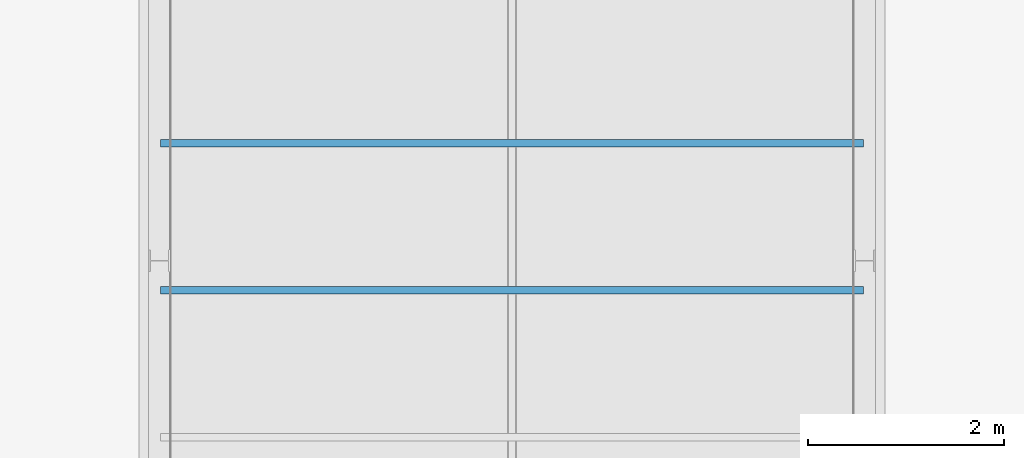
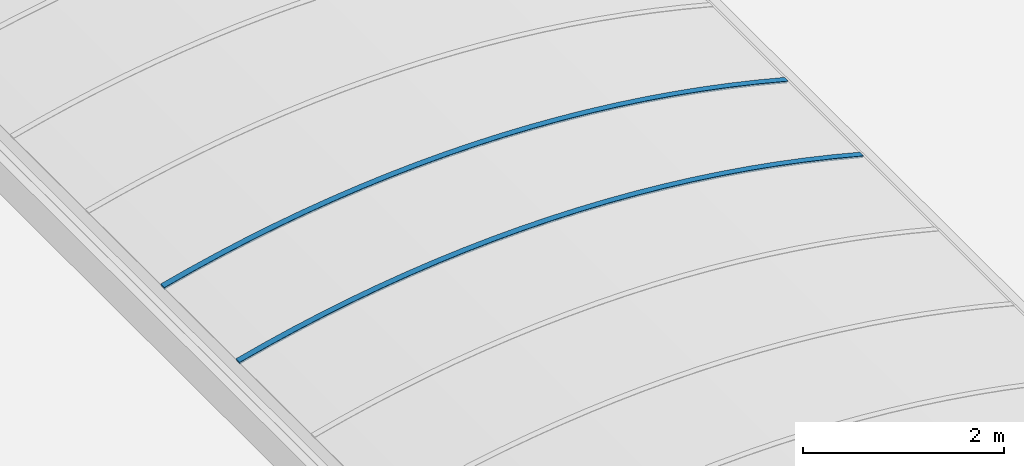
# One storey, part 45 of 81: 2 beams.
"""IFC2X3 building model written with IfcOpenShell, lengths in millimetres."""

from ifc_helpers import new_model, entity, si_unit, converted_unit, derived_unit, money_unit, direction, frame, origin_with_axes, place, context, subcontext, project, spatial, faceted_brep, material, material_list, type_object, element, save


model = new_model("IFC2X3")

# Units and contexts
model_context = context("Model", 3, precision=0.01, world=origin_with_axes(), true_north=direction((0.0, 1.0)))
body_context = subcontext(model_context, "Body", "Model", "MODEL_VIEW")
ifc_project = project(units=[si_unit("LENGTHUNIT", "METRE", prefix="MILLI"), si_unit("AREAUNIT", "SQUARE_METRE"), si_unit("VOLUMEUNIT", "CUBIC_METRE"), converted_unit("PLANEANGLEUNIT", "DEGREE", entity("IfcPlaneAngleMeasure", 0.0174532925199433), si_unit("PLANEANGLEUNIT", "RADIAN"), dimensions=[0, 0, 0, 0, 0, 0, 0]), money_unit("EUR"), converted_unit("TIMEUNIT", "Year", entity("IfcTimeMeasure", 31557600.0), si_unit("TIMEUNIT", "SECOND"), dimensions=[0, 0, 1, 0, 0, 0, 0]), si_unit("MASSUNIT", "GRAM", prefix="KILO"), si_unit("THERMODYNAMICTEMPERATUREUNIT", "DEGREE_CELSIUS"), si_unit("LUMINOUSINTENSITYUNIT", "LUMEN"), si_unit("ENERGYUNIT", "JOULE", prefix="MEGA"), derived_unit("THERMALCONDUCTANCEUNIT", [(si_unit("POWERUNIT", "WATT"), 1), (si_unit("LENGTHUNIT", "METRE"), -1), (si_unit("THERMODYNAMICTEMPERATUREUNIT", "KELVIN"), -1)]), derived_unit("SPECIFICHEATCAPACITYUNIT", [(si_unit("ENERGYUNIT", "JOULE"), 1), (si_unit("MASSUNIT", "GRAM", prefix="KILO"), -1), (si_unit("THERMODYNAMICTEMPERATUREUNIT", "KELVIN"), -1)]), derived_unit("MASSDENSITYUNIT", [(si_unit("MASSUNIT", "GRAM", prefix="KILO"), 1), (si_unit("VOLUMEUNIT", "CUBIC_METRE"), -1)])], contexts=[model_context])

# Site, building, storey
site_placement = place(None, origin_with_axes())
site = spatial("IfcSite", under=ifc_project, at=site_placement, Name="Site", CompositionType="ELEMENT")
building_placement = place(site_placement, origin_with_axes())
building = spatial("IfcBuilding", under=site, at=building_placement, Name="Naam gebouw", CompositionType="ELEMENT")
storey_placement = place(building_placement, frame((0.0, 0.0, 15320.0), z_axis=(0.0, 0.0, 1.0), x_axis=(1.0, 0.0, 0.0)))
storey = spatial("IfcBuildingStorey", under=building, at=storey_placement, Name="01 dak", CompositionType="ELEMENT", Elevation=15320.0)

# Beams
ifc_material = material(Name="Metaal - Aluminium AFW")
ifc_material_list = material_list([ifc_material, ifc_material])
beam_type = type_object("IfcBeamType", Name="lichtstraat polycarbonaat (constructie) 7420 x 670", PredefinedType="BEAM")
beam_1_placement = place(storey_placement, frame((46900.00000000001, 72862.50000000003, 559.9999999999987), z_axis=(0.0, 0.0, 1.0), x_axis=(1.0, 0.0, 0.0)))
element("IfcBeam", 1, at=beam_1_placement, inside=storey, type_object=beam_type, material=ifc_material_list, Name="Plafondafwerking 3", ObjectType="BEAM", context=body_context, shape_type="Brep", body=[
    faceted_brep([(-3532.999999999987, 0.0, 192.1385480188), (-3582.999999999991, 0.0, 179.000000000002), (-3582.999999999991, 75.00000000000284, 179.000000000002), (-3532.999999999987, 75.00000000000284, 192.1385480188), (-3264.746952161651, 0.0, 264.2761146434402), (-3584.237010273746, 0.0, 183.6724462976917), (-3527.999999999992, 0.0, 193.4415530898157), (-3213.322878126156, 0.0, 271.5053933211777), (-2896.922437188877, 0.0, 342.2614189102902), (-2578.968364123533, 0.0, 405.6716830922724), (-2259.631179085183, 0.0, 461.7021786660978), (-1939.082143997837, 0.0, 510.3228562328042), (-1617.493170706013, 0.0, 551.5076403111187), (-1295.036728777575, 0.0, 585.2344433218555), (-971.8857530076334, 0.0, 611.485177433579), (-648.2135506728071, 0.0, 630.2457642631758), (-324.1937085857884, 0.0, 641.5061424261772), (0.0, 0.0, 645.2602729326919), (324.1937085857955, 0.0, 641.5061424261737), (648.2135506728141, 0.0, 630.2457642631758), (971.8857530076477, 0.0, 611.4851774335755), (1295.036728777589, 0.0, 585.2344433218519), (1617.49317070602, 0.0, 551.5076403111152), (1939.082143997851, 0.0, 510.3228562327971), (2259.63117908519, 0.0, 461.7021786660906), (2578.968364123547, 0.0, 405.6716830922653), (2896.922437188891, 0.0, 342.2614189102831), (3213.322878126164, 0.0, 271.5053933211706), (3528.000000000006, 0.0, 193.4415530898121), (3528.000000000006, 0.0, 194.0000000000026), (3533.000000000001, 0.0, 194.0000000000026), (3533.000000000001, 0.0, 192.1385480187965), (3582.999999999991, 0.0, 179.000000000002), (3584.237010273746, 0.0, 183.6724462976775), (3264.746952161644, 0.0, 264.2761146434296), (2943.448443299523, 0.0, 337.3385317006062), (2620.519461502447, 0.0, 402.8192257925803), (2296.138887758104, 0.0, 460.6819250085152), (1970.486407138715, 0.0, 510.8945772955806), (1643.742409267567, 0.0, 553.4293682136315), (1316.087888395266, 0.0, 588.2627363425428), (987.7043431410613, 0.0, 615.3753863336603), (658.7736759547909, 0.0, 634.7522995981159), (329.4780923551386, 0.0, 646.3827426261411), (0.0, 0.0, 650.2602729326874), (-329.4780923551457, 0.0, 646.3827426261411), (-658.7736759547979, 0.0, 634.7522995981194), (-987.7043431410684, 0.0, 615.375386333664), (-1316.087888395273, 0.0, 588.2627363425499), (-1643.742409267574, 0.0, 553.4293682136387), (-1970.486407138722, 0.0, 510.8945772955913), (-2296.138887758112, 0.0, 460.6819250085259), (-2620.519461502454, 0.0, 402.8192257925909), (-2943.44844329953, 0.0, 337.3385317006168), (-3584.237010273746, 75.00000000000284, 183.6724462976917), (-3527.999999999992, 75.00000000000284, 193.4415530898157), (-3264.746952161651, 75.00000000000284, 264.2761146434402), (-2943.44844329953, 75.00000000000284, 337.3385317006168), (-2620.519461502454, 75.00000000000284, 402.8192257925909), (-2296.138887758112, 75.00000000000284, 460.6819250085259), (-1970.486407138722, 75.00000000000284, 510.8945772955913), (-1643.742409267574, 75.00000000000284, 553.4293682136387), (-1316.087888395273, 75.00000000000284, 588.2627363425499), (-987.7043431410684, 75.00000000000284, 615.375386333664), (-658.7736759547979, 75.00000000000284, 634.7522995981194), (-329.4780923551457, 75.00000000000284, 646.3827426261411), (0.0, 75.00000000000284, 650.2602729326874), (329.4780923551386, 75.00000000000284, 646.3827426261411), (658.7736759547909, 75.00000000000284, 634.7522995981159), (987.7043431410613, 75.00000000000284, 615.3753863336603), (1316.087888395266, 75.00000000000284, 588.2627363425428), (1643.742409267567, 75.00000000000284, 553.4293682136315), (1970.486407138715, 75.00000000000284, 510.8945772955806), (2296.138887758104, 75.00000000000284, 460.6819250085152), (2620.519461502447, 75.00000000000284, 402.8192257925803), (2943.448443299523, 75.00000000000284, 337.3385317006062), (3264.746952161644, 75.00000000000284, 264.2761146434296), (3584.237010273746, 75.00000000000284, 183.6724462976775), (3582.999999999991, 75.00000000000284, 179.000000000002), (3533.000000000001, 75.00000000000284, 192.1385480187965), (3533.000000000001, 75.00000000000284, 194.0000000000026), (3528.000000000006, 75.00000000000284, 194.0000000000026), (3528.000000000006, 75.00000000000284, 193.4415530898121), (3213.322878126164, 75.00000000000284, 271.5053933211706), (2896.922437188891, 75.00000000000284, 342.2614189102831), (2578.968364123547, 75.00000000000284, 405.6716830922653), (2259.63117908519, 75.00000000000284, 461.7021786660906), (1939.082143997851, 75.00000000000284, 510.3228562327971), (1617.49317070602, 75.00000000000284, 551.5076403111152), (1295.036728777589, 75.00000000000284, 585.2344433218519), (971.8857530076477, 75.00000000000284, 611.4851774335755), (648.2135506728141, 75.00000000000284, 630.2457642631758), (324.1937085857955, 75.00000000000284, 641.5061424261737), (0.0, 75.00000000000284, 645.2602729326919), (-324.1937085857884, 75.00000000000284, 641.5061424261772), (-648.2135506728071, 75.00000000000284, 630.2457642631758), (-971.8857530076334, 75.00000000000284, 611.485177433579), (-1295.036728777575, 75.00000000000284, 585.2344433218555), (-1617.493170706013, 75.00000000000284, 551.5076403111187), (-1939.082143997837, 75.00000000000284, 510.3228562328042), (-2259.631179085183, 75.00000000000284, 461.7021786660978), (-2578.968364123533, 75.00000000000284, 405.6716830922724), (-2896.922437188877, 75.00000000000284, 342.2614189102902), (-3213.322878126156, 75.00000000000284, 271.5053933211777)], [[[0, 1, 2, 3]], [[4, 5, 1, 0, 6, 7, 8, 9, 10, 11, 12, 13, 14, 15, 16, 17, 18, 19, 20, 21, 22, 23, 24, 25, 26, 27, 28, 29, 30, 31, 32, 33, 34, 35, 36, 37, 38, 39, 40, 41, 42, 43, 44, 45, 46, 47, 48, 49, 50, 51, 52, 53]], [[1, 5, 54, 2]], [[55, 3, 2, 54, 56, 57, 58, 59, 60, 61, 62, 63, 64, 65, 66, 67, 68, 69, 70, 71, 72, 73, 74, 75, 76, 77, 78, 79, 80, 81, 82, 83, 84, 85, 86, 87, 88, 89, 90, 91, 92, 93, 94, 95, 96, 97, 98, 99, 100, 101, 102, 103]], [[6, 0, 3, 55]], [[5, 4, 56, 54]], [[7, 6, 55, 103]], [[8, 7, 103, 102]], [[9, 8, 102, 101]], [[10, 9, 101, 100]], [[11, 10, 100, 99]], [[12, 11, 99, 98]], [[13, 12, 98, 97]], [[14, 13, 97, 96]], [[15, 14, 96, 95]], [[16, 15, 95, 94]], [[17, 16, 94, 93]], [[18, 17, 93, 92]], [[19, 18, 92, 91]], [[20, 19, 91, 90]], [[21, 20, 90, 89]], [[22, 21, 89, 88]], [[23, 22, 88, 87]], [[24, 23, 87, 86]], [[25, 24, 86, 85]], [[26, 25, 85, 84]], [[27, 26, 84, 83]], [[28, 27, 83, 82]], [[29, 28, 82, 81]], [[30, 29, 81, 80]], [[31, 30, 80, 79]], [[32, 31, 79, 78]], [[33, 32, 78, 77]], [[34, 33, 77, 76]], [[35, 34, 76, 75]], [[36, 35, 75, 74]], [[37, 36, 74, 73]], [[38, 37, 73, 72]], [[39, 38, 72, 71]], [[40, 39, 71, 70]], [[41, 40, 70, 69]], [[42, 41, 69, 68]], [[43, 42, 68, 67]], [[44, 43, 67, 66]], [[45, 44, 66, 65]], [[46, 45, 65, 64]], [[47, 46, 64, 63]], [[48, 47, 63, 62]], [[49, 48, 62, 61]], [[50, 49, 61, 60]], [[51, 50, 60, 59]], [[52, 51, 59, 58]], [[53, 52, 58, 57]], [[4, 53, 57, 56]]]),
    faceted_brep([(3269.271727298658, 75.00000000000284, 283.190243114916), (2947.542627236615, 75.00000000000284, 356.4574241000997), (2947.542627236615, 0.0, 356.4574241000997), (3269.271727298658, 0.0, 283.190243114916), (3589.18475202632, 75.00000000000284, 202.3611008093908), (3587.947861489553, 75.00000000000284, 197.6891067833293), (3528.000000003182, 75.00000000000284, 213.4415530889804), (3213.322878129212, 75.00000000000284, 291.505393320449), (2896.922437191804, 75.00000000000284, 362.2614189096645), (2578.968364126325, 75.00000000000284, 425.6716830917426), (2259.631179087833, 75.00000000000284, 481.7021786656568), (1939.082144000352, 75.00000000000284, 530.3228562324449), (1617.493170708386, 75.00000000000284, 571.5076403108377), (1295.036728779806, 75.00000000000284, 605.2344433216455), (971.8857530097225, 75.00000000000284, 631.4851774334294), (648.2135506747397, 75.00000000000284, 650.2457642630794), (324.1937085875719, 75.00000000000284, 661.5061424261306), (1.63424829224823e-09, 75.00000000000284, 665.2602729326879), (-324.1937085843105, 75.00000000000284, 661.5061424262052), (-648.2135506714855, 75.00000000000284, 650.2457642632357), (-971.8857530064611, 75.00000000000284, 631.4851774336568), (-1295.036728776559, 75.00000000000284, 605.2344433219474), (-1617.493170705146, 75.00000000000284, 571.5076403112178), (-1939.082143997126, 75.00000000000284, 530.3228562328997), (-2259.631179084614, 75.00000000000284, 481.7021786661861), (-2578.968364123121, 75.00000000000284, 425.6716830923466), (-2896.922437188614, 75.00000000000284, 362.2614189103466), (-3213.322878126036, 75.00000000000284, 291.5053933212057), (-3528.00000000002, 75.00000000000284, 213.4415530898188), (-3533.000000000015, 75.00000000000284, 212.1385480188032), (-3587.947861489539, 75.00000000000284, 197.6891067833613), (-3589.184752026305, 75.00000000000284, 202.3611008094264), (-3269.271727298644, 75.00000000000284, 283.1902431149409), (-2947.542627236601, 75.00000000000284, 356.4574241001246), (-2624.176171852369, 75.00000000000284, 422.1219439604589), (-2299.351990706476, 75.00000000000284, 480.1473261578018), (-1973.250523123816, 75.00000000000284, 530.5013376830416), (-1646.052917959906, 75.00000000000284, 573.156006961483), (-1317.940932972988, 75.00000000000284, 608.0876393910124), (-989.0968338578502, 75.00000000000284, 635.2768305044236), (-659.7032929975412, 75.00000000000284, 654.7084767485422), (-329.9432879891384, 75.00000000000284, 666.3717838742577), (0.0, 75.00000000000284, 670.2602729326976), (329.9432879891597, 75.00000000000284, 666.3717838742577), (659.7032929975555, 75.00000000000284, 654.7084767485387), (989.0968338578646, 75.00000000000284, 635.2768305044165), (1317.940932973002, 75.00000000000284, 608.0876393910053), (1646.052917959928, 75.00000000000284, 573.1560069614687), (1973.250523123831, 75.00000000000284, 530.5013376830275), (2299.351990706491, 75.00000000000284, 480.147326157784), (2624.176171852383, 75.00000000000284, 422.1219439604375), (2624.176171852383, 0.0, 422.1219439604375), (2299.351990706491, 0.0, 480.147326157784), (1973.250523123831, 0.0, 530.5013376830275), (1646.052917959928, 0.0, 573.1560069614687), (1317.940932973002, 0.0, 608.0876393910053), (989.0968338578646, 0.0, 635.2768305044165), (659.7032929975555, 0.0, 654.7084767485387), (329.9432879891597, 0.0, 666.3717838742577), (0.0, 0.0, 670.2602729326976), (-329.9432879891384, 0.0, 666.3717838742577), (-659.7032929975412, 0.0, 654.7084767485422), (-989.0968338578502, 0.0, 635.2768305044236), (-1317.940932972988, 0.0, 608.0876393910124), (-1646.052917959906, 0.0, 573.156006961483), (-1973.250523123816, 0.0, 530.5013376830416), (-2299.351990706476, 0.0, 480.1473261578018), (-2624.176171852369, 0.0, 422.1219439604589), (-2947.542627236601, 0.0, 356.4574241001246), (-3269.271727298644, 0.0, 283.1902431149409), (-3589.184752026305, 0.0, 202.3611008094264), (-3587.947861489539, 0.0, 197.6891067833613), (-3533.000000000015, 0.0, 212.1385480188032), (-3528.00000000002, 0.0, 213.4415530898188), (-3213.322878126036, 0.0, 291.5053933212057), (-2896.922437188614, 0.0, 362.2614189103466), (-2578.968364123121, 0.0, 425.6716830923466), (-2259.631179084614, 0.0, 481.7021786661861), (-1939.082143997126, 0.0, 530.3228562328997), (-1617.493170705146, 0.0, 571.5076403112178), (-1295.036728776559, 0.0, 605.2344433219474), (-971.8857530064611, 0.0, 631.4851774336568), (-648.2135506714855, 0.0, 650.2457642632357), (-324.1937085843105, 0.0, 661.5061424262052), (1.63424829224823e-09, 0.0, 665.2602729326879), (324.1937085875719, 0.0, 661.5061424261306), (648.2135506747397, 0.0, 650.2457642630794), (971.8857530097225, 0.0, 631.4851774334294), (1295.036728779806, 0.0, 605.2344433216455), (1617.493170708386, 0.0, 571.5076403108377), (1939.082144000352, 0.0, 530.3228562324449), (2259.631179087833, 0.0, 481.7021786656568), (2578.968364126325, 0.0, 425.6716830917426), (2896.922437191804, 0.0, 362.2614189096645), (3213.322878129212, 0.0, 291.505393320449), (3528.000000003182, 0.0, 213.4415530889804), (3587.947861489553, 0.0, 197.6891067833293), (3589.18475202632, 0.0, 202.3611008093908)], [[[0, 1, 2, 3]], [[0, 4, 5, 6, 7, 8, 9, 10, 11, 12, 13, 14, 15, 16, 17, 18, 19, 20, 21, 22, 23, 24, 25, 26, 27, 28, 29, 30, 31, 32, 33, 34, 35, 36, 37, 38, 39, 40, 41, 42, 43, 44, 45, 46, 47, 48, 49, 50, 1]], [[1, 50, 51, 2]], [[3, 2, 51, 52, 53, 54, 55, 56, 57, 58, 59, 60, 61, 62, 63, 64, 65, 66, 67, 68, 69, 70, 71, 72, 73, 74, 75, 76, 77, 78, 79, 80, 81, 82, 83, 84, 85, 86, 87, 88, 89, 90, 91, 92, 93, 94, 95, 96, 97]], [[4, 0, 3, 97]], [[5, 4, 97, 96]], [[6, 5, 96, 95]], [[7, 6, 95, 94]], [[8, 7, 94, 93]], [[9, 8, 93, 92]], [[10, 9, 92, 91]], [[11, 10, 91, 90]], [[12, 11, 90, 89]], [[13, 12, 89, 88]], [[14, 13, 88, 87]], [[15, 14, 87, 86]], [[16, 15, 86, 85]], [[17, 16, 85, 84]], [[18, 17, 84, 83]], [[19, 18, 83, 82]], [[20, 19, 82, 81]], [[21, 20, 81, 80]], [[22, 21, 80, 79]], [[23, 22, 79, 78]], [[24, 23, 78, 77]], [[25, 24, 77, 76]], [[26, 25, 76, 75]], [[27, 26, 75, 74]], [[28, 27, 74, 73]], [[29, 28, 73, 72]], [[30, 29, 72, 71]], [[31, 30, 71, 70]], [[32, 31, 70, 69]], [[33, 32, 69, 68]], [[34, 33, 68, 67]], [[35, 34, 67, 66]], [[36, 35, 66, 65]], [[37, 36, 65, 64]], [[38, 37, 64, 63]], [[39, 38, 63, 62]], [[40, 39, 62, 61]], [[41, 40, 61, 60]], [[42, 41, 60, 59]], [[43, 42, 59, 58]], [[44, 43, 58, 57]], [[45, 44, 57, 56]], [[46, 45, 56, 55]], [[47, 46, 55, 54]], [[48, 47, 54, 53]], [[49, 48, 53, 52]], [[50, 49, 52, 51]]]),
])
beam_2_placement = place(storey_placement, frame((46900.00000000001, 74362.50000000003, 559.9999999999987), z_axis=(0.0, 0.0, 1.0), x_axis=(1.0, 0.0, 0.0)))
element("IfcBeam", 2, at=beam_2_placement, inside=storey, type_object=beam_type, material=ifc_material_list, Name="Plafondafwerking 3", ObjectType="BEAM", context=body_context, shape_type="Brep", body=[
    faceted_brep([(-3532.999999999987, 0.0, 192.1385480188), (-3582.999999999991, 0.0, 179.000000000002), (-3582.999999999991, 75.00000000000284, 179.000000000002), (-3532.999999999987, 75.00000000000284, 192.1385480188), (-3264.746952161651, 0.0, 264.2761146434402), (-3584.237010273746, 0.0, 183.6724462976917), (-3527.999999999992, 0.0, 193.4415530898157), (-3213.322878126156, 0.0, 271.5053933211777), (-2896.922437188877, 0.0, 342.2614189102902), (-2578.968364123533, 0.0, 405.6716830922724), (-2259.631179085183, 0.0, 461.7021786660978), (-1939.082143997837, 0.0, 510.3228562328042), (-1617.493170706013, 0.0, 551.5076403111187), (-1295.036728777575, 0.0, 585.2344433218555), (-971.8857530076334, 0.0, 611.485177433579), (-648.2135506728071, 0.0, 630.2457642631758), (-324.1937085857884, 0.0, 641.5061424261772), (0.0, 0.0, 645.2602729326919), (324.1937085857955, 0.0, 641.5061424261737), (648.2135506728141, 0.0, 630.2457642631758), (971.8857530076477, 0.0, 611.4851774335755), (1295.036728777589, 0.0, 585.2344433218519), (1617.49317070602, 0.0, 551.5076403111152), (1939.082143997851, 0.0, 510.3228562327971), (2259.63117908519, 0.0, 461.7021786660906), (2578.968364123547, 0.0, 405.6716830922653), (2896.922437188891, 0.0, 342.2614189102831), (3213.322878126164, 0.0, 271.5053933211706), (3528.000000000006, 0.0, 193.4415530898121), (3528.000000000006, 0.0, 194.0000000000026), (3533.000000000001, 0.0, 194.0000000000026), (3533.000000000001, 0.0, 192.1385480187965), (3582.999999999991, 0.0, 179.000000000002), (3584.237010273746, 0.0, 183.6724462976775), (3264.746952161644, 0.0, 264.2761146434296), (2943.448443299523, 0.0, 337.3385317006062), (2620.519461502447, 0.0, 402.8192257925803), (2296.138887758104, 0.0, 460.6819250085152), (1970.486407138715, 0.0, 510.8945772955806), (1643.742409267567, 0.0, 553.4293682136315), (1316.087888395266, 0.0, 588.2627363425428), (987.7043431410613, 0.0, 615.3753863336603), (658.7736759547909, 0.0, 634.7522995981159), (329.4780923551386, 0.0, 646.3827426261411), (0.0, 0.0, 650.2602729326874), (-329.4780923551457, 0.0, 646.3827426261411), (-658.7736759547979, 0.0, 634.7522995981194), (-987.7043431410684, 0.0, 615.375386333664), (-1316.087888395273, 0.0, 588.2627363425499), (-1643.742409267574, 0.0, 553.4293682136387), (-1970.486407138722, 0.0, 510.8945772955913), (-2296.138887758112, 0.0, 460.6819250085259), (-2620.519461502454, 0.0, 402.8192257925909), (-2943.44844329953, 0.0, 337.3385317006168), (-3584.237010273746, 75.00000000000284, 183.6724462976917), (-3527.999999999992, 75.00000000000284, 193.4415530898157), (-3264.746952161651, 75.00000000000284, 264.2761146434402), (-2943.44844329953, 75.00000000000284, 337.3385317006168), (-2620.519461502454, 75.00000000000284, 402.8192257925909), (-2296.138887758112, 75.00000000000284, 460.6819250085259), (-1970.486407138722, 75.00000000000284, 510.8945772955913), (-1643.742409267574, 75.00000000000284, 553.4293682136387), (-1316.087888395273, 75.00000000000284, 588.2627363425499), (-987.7043431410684, 75.00000000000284, 615.375386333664), (-658.7736759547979, 75.00000000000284, 634.7522995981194), (-329.4780923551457, 75.00000000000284, 646.3827426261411), (0.0, 75.00000000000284, 650.2602729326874), (329.4780923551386, 75.00000000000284, 646.3827426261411), (658.7736759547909, 75.00000000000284, 634.7522995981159), (987.7043431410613, 75.00000000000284, 615.3753863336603), (1316.087888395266, 75.00000000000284, 588.2627363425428), (1643.742409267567, 75.00000000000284, 553.4293682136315), (1970.486407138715, 75.00000000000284, 510.8945772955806), (2296.138887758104, 75.00000000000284, 460.6819250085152), (2620.519461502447, 75.00000000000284, 402.8192257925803), (2943.448443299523, 75.00000000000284, 337.3385317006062), (3264.746952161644, 75.00000000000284, 264.2761146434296), (3584.237010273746, 75.00000000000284, 183.6724462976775), (3582.999999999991, 75.00000000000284, 179.000000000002), (3533.000000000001, 75.00000000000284, 192.1385480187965), (3533.000000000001, 75.00000000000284, 194.0000000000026), (3528.000000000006, 75.00000000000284, 194.0000000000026), (3528.000000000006, 75.00000000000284, 193.4415530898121), (3213.322878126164, 75.00000000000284, 271.5053933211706), (2896.922437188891, 75.00000000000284, 342.2614189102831), (2578.968364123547, 75.00000000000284, 405.6716830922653), (2259.63117908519, 75.00000000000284, 461.7021786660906), (1939.082143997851, 75.00000000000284, 510.3228562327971), (1617.49317070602, 75.00000000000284, 551.5076403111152), (1295.036728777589, 75.00000000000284, 585.2344433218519), (971.8857530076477, 75.00000000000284, 611.4851774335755), (648.2135506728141, 75.00000000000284, 630.2457642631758), (324.1937085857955, 75.00000000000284, 641.5061424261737), (0.0, 75.00000000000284, 645.2602729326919), (-324.1937085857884, 75.00000000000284, 641.5061424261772), (-648.2135506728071, 75.00000000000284, 630.2457642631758), (-971.8857530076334, 75.00000000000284, 611.485177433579), (-1295.036728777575, 75.00000000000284, 585.2344433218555), (-1617.493170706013, 75.00000000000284, 551.5076403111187), (-1939.082143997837, 75.00000000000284, 510.3228562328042), (-2259.631179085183, 75.00000000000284, 461.7021786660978), (-2578.968364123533, 75.00000000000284, 405.6716830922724), (-2896.922437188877, 75.00000000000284, 342.2614189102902), (-3213.322878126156, 75.00000000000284, 271.5053933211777)], [[[0, 1, 2, 3]], [[4, 5, 1, 0, 6, 7, 8, 9, 10, 11, 12, 13, 14, 15, 16, 17, 18, 19, 20, 21, 22, 23, 24, 25, 26, 27, 28, 29, 30, 31, 32, 33, 34, 35, 36, 37, 38, 39, 40, 41, 42, 43, 44, 45, 46, 47, 48, 49, 50, 51, 52, 53]], [[1, 5, 54, 2]], [[55, 3, 2, 54, 56, 57, 58, 59, 60, 61, 62, 63, 64, 65, 66, 67, 68, 69, 70, 71, 72, 73, 74, 75, 76, 77, 78, 79, 80, 81, 82, 83, 84, 85, 86, 87, 88, 89, 90, 91, 92, 93, 94, 95, 96, 97, 98, 99, 100, 101, 102, 103]], [[6, 0, 3, 55]], [[5, 4, 56, 54]], [[7, 6, 55, 103]], [[8, 7, 103, 102]], [[9, 8, 102, 101]], [[10, 9, 101, 100]], [[11, 10, 100, 99]], [[12, 11, 99, 98]], [[13, 12, 98, 97]], [[14, 13, 97, 96]], [[15, 14, 96, 95]], [[16, 15, 95, 94]], [[17, 16, 94, 93]], [[18, 17, 93, 92]], [[19, 18, 92, 91]], [[20, 19, 91, 90]], [[21, 20, 90, 89]], [[22, 21, 89, 88]], [[23, 22, 88, 87]], [[24, 23, 87, 86]], [[25, 24, 86, 85]], [[26, 25, 85, 84]], [[27, 26, 84, 83]], [[28, 27, 83, 82]], [[29, 28, 82, 81]], [[30, 29, 81, 80]], [[31, 30, 80, 79]], [[32, 31, 79, 78]], [[33, 32, 78, 77]], [[34, 33, 77, 76]], [[35, 34, 76, 75]], [[36, 35, 75, 74]], [[37, 36, 74, 73]], [[38, 37, 73, 72]], [[39, 38, 72, 71]], [[40, 39, 71, 70]], [[41, 40, 70, 69]], [[42, 41, 69, 68]], [[43, 42, 68, 67]], [[44, 43, 67, 66]], [[45, 44, 66, 65]], [[46, 45, 65, 64]], [[47, 46, 64, 63]], [[48, 47, 63, 62]], [[49, 48, 62, 61]], [[50, 49, 61, 60]], [[51, 50, 60, 59]], [[52, 51, 59, 58]], [[53, 52, 58, 57]], [[4, 53, 57, 56]]]),
    faceted_brep([(3269.271727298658, 75.00000000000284, 283.190243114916), (2947.542627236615, 75.00000000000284, 356.4574241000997), (2947.542627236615, 0.0, 356.4574241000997), (3269.271727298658, 0.0, 283.190243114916), (3589.18475202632, 75.00000000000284, 202.3611008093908), (3587.947861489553, 75.00000000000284, 197.6891067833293), (3528.000000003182, 75.00000000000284, 213.4415530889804), (3213.322878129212, 75.00000000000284, 291.505393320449), (2896.922437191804, 75.00000000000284, 362.2614189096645), (2578.968364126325, 75.00000000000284, 425.6716830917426), (2259.631179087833, 75.00000000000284, 481.7021786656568), (1939.082144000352, 75.00000000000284, 530.3228562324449), (1617.493170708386, 75.00000000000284, 571.5076403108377), (1295.036728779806, 75.00000000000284, 605.2344433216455), (971.8857530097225, 75.00000000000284, 631.4851774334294), (648.2135506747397, 75.00000000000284, 650.2457642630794), (324.1937085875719, 75.00000000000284, 661.5061424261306), (1.63424829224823e-09, 75.00000000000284, 665.2602729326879), (-324.1937085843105, 75.00000000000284, 661.5061424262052), (-648.2135506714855, 75.00000000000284, 650.2457642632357), (-971.8857530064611, 75.00000000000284, 631.4851774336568), (-1295.036728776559, 75.00000000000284, 605.2344433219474), (-1617.493170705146, 75.00000000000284, 571.5076403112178), (-1939.082143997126, 75.00000000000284, 530.3228562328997), (-2259.631179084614, 75.00000000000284, 481.7021786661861), (-2578.968364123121, 75.00000000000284, 425.6716830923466), (-2896.922437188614, 75.00000000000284, 362.2614189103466), (-3213.322878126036, 75.00000000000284, 291.5053933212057), (-3528.00000000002, 75.00000000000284, 213.4415530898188), (-3533.000000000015, 75.00000000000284, 212.1385480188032), (-3587.947861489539, 75.00000000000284, 197.6891067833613), (-3589.184752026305, 75.00000000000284, 202.3611008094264), (-3269.271727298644, 75.00000000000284, 283.1902431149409), (-2947.542627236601, 75.00000000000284, 356.4574241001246), (-2624.176171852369, 75.00000000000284, 422.1219439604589), (-2299.351990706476, 75.00000000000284, 480.1473261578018), (-1973.250523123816, 75.00000000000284, 530.5013376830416), (-1646.052917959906, 75.00000000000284, 573.156006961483), (-1317.940932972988, 75.00000000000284, 608.0876393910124), (-989.0968338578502, 75.00000000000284, 635.2768305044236), (-659.7032929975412, 75.00000000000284, 654.7084767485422), (-329.9432879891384, 75.00000000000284, 666.3717838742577), (0.0, 75.00000000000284, 670.2602729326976), (329.9432879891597, 75.00000000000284, 666.3717838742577), (659.7032929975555, 75.00000000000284, 654.7084767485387), (989.0968338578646, 75.00000000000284, 635.2768305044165), (1317.940932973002, 75.00000000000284, 608.0876393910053), (1646.052917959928, 75.00000000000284, 573.1560069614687), (1973.250523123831, 75.00000000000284, 530.5013376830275), (2299.351990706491, 75.00000000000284, 480.147326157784), (2624.176171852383, 75.00000000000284, 422.1219439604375), (2624.176171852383, 0.0, 422.1219439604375), (2299.351990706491, 0.0, 480.147326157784), (1973.250523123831, 0.0, 530.5013376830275), (1646.052917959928, 0.0, 573.1560069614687), (1317.940932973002, 0.0, 608.0876393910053), (989.0968338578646, 0.0, 635.2768305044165), (659.7032929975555, 0.0, 654.7084767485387), (329.9432879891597, 0.0, 666.3717838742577), (0.0, 0.0, 670.2602729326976), (-329.9432879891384, 0.0, 666.3717838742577), (-659.7032929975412, 0.0, 654.7084767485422), (-989.0968338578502, 0.0, 635.2768305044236), (-1317.940932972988, 0.0, 608.0876393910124), (-1646.052917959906, 0.0, 573.156006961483), (-1973.250523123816, 0.0, 530.5013376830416), (-2299.351990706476, 0.0, 480.1473261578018), (-2624.176171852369, 0.0, 422.1219439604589), (-2947.542627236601, 0.0, 356.4574241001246), (-3269.271727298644, 0.0, 283.1902431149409), (-3589.184752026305, 0.0, 202.3611008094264), (-3587.947861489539, 0.0, 197.6891067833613), (-3533.000000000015, 0.0, 212.1385480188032), (-3528.00000000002, 0.0, 213.4415530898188), (-3213.322878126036, 0.0, 291.5053933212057), (-2896.922437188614, 0.0, 362.2614189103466), (-2578.968364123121, 0.0, 425.6716830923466), (-2259.631179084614, 0.0, 481.7021786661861), (-1939.082143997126, 0.0, 530.3228562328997), (-1617.493170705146, 0.0, 571.5076403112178), (-1295.036728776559, 0.0, 605.2344433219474), (-971.8857530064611, 0.0, 631.4851774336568), (-648.2135506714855, 0.0, 650.2457642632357), (-324.1937085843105, 0.0, 661.5061424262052), (1.63424829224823e-09, 0.0, 665.2602729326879), (324.1937085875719, 0.0, 661.5061424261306), (648.2135506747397, 0.0, 650.2457642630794), (971.8857530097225, 0.0, 631.4851774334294), (1295.036728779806, 0.0, 605.2344433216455), (1617.493170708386, 0.0, 571.5076403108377), (1939.082144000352, 0.0, 530.3228562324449), (2259.631179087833, 0.0, 481.7021786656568), (2578.968364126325, 0.0, 425.6716830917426), (2896.922437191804, 0.0, 362.2614189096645), (3213.322878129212, 0.0, 291.505393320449), (3528.000000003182, 0.0, 213.4415530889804), (3587.947861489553, 0.0, 197.6891067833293), (3589.18475202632, 0.0, 202.3611008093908)], [[[0, 1, 2, 3]], [[0, 4, 5, 6, 7, 8, 9, 10, 11, 12, 13, 14, 15, 16, 17, 18, 19, 20, 21, 22, 23, 24, 25, 26, 27, 28, 29, 30, 31, 32, 33, 34, 35, 36, 37, 38, 39, 40, 41, 42, 43, 44, 45, 46, 47, 48, 49, 50, 1]], [[1, 50, 51, 2]], [[3, 2, 51, 52, 53, 54, 55, 56, 57, 58, 59, 60, 61, 62, 63, 64, 65, 66, 67, 68, 69, 70, 71, 72, 73, 74, 75, 76, 77, 78, 79, 80, 81, 82, 83, 84, 85, 86, 87, 88, 89, 90, 91, 92, 93, 94, 95, 96, 97]], [[4, 0, 3, 97]], [[5, 4, 97, 96]], [[6, 5, 96, 95]], [[7, 6, 95, 94]], [[8, 7, 94, 93]], [[9, 8, 93, 92]], [[10, 9, 92, 91]], [[11, 10, 91, 90]], [[12, 11, 90, 89]], [[13, 12, 89, 88]], [[14, 13, 88, 87]], [[15, 14, 87, 86]], [[16, 15, 86, 85]], [[17, 16, 85, 84]], [[18, 17, 84, 83]], [[19, 18, 83, 82]], [[20, 19, 82, 81]], [[21, 20, 81, 80]], [[22, 21, 80, 79]], [[23, 22, 79, 78]], [[24, 23, 78, 77]], [[25, 24, 77, 76]], [[26, 25, 76, 75]], [[27, 26, 75, 74]], [[28, 27, 74, 73]], [[29, 28, 73, 72]], [[30, 29, 72, 71]], [[31, 30, 71, 70]], [[32, 31, 70, 69]], [[33, 32, 69, 68]], [[34, 33, 68, 67]], [[35, 34, 67, 66]], [[36, 35, 66, 65]], [[37, 36, 65, 64]], [[38, 37, 64, 63]], [[39, 38, 63, 62]], [[40, 39, 62, 61]], [[41, 40, 61, 60]], [[42, 41, 60, 59]], [[43, 42, 59, 58]], [[44, 43, 58, 57]], [[45, 44, 57, 56]], [[46, 45, 56, 55]], [[47, 46, 55, 54]], [[48, 47, 54, 53]], [[49, 48, 53, 52]], [[50, 49, 52, 51]]]),
])

save(model, "model.ifc")
